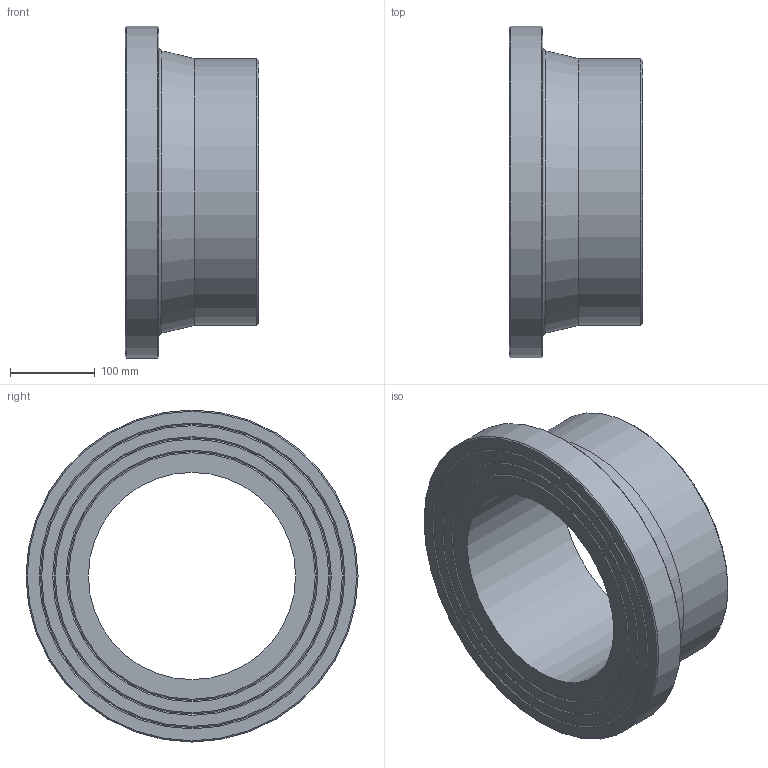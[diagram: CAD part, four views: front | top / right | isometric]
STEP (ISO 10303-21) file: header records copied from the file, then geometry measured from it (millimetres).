
FILE_DESCRIPTION(/* description */ ('Unknown'),/* implementation_level */ '2;1');
FILE_NAME(/* name */ 'CCP315G',/* time_stamp */ '2022-04-04T12:54:09+02:00',/* author */ ('Unknown'),/* organization */ ('Unknown'),/* preprocessor_version */ 'ST-DEVELOPER v18.1',/* originating_system */ 'Solid Edge',/* authorisation */ 'Unknown');
FILE_SCHEMA (('AUTOMOTIVE_DESIGN {1 0 10303 214 3 1 1}'));
Length unit declared in the file: millimetre
Products named in the file (1): CCP315G
Bounding box: 158 x 392 x 392 mm (x, y, z)
Volume: 6802350.6 mm3; surface area: 424717.8 mm2
Topology: 1 solids, 1 shells, 20 faces, 35 edges, 21 vertices
Faces by surface type: cone 10, plane 6, cylinder 3, torus 1
Full cylindrical faces by diameter (mm): 244.6 x1, 315 x1, 392 x1
Entity records: 438 total; most frequent: DIRECTION 82, CARTESIAN_POINT 61, AXIS2_PLACEMENT_3D 41, ORIENTED_EDGE 40, EDGE_LOOP 40, FACE_BOUND 40, EDGE_CURVE 20, VERTEX_POINT 20
